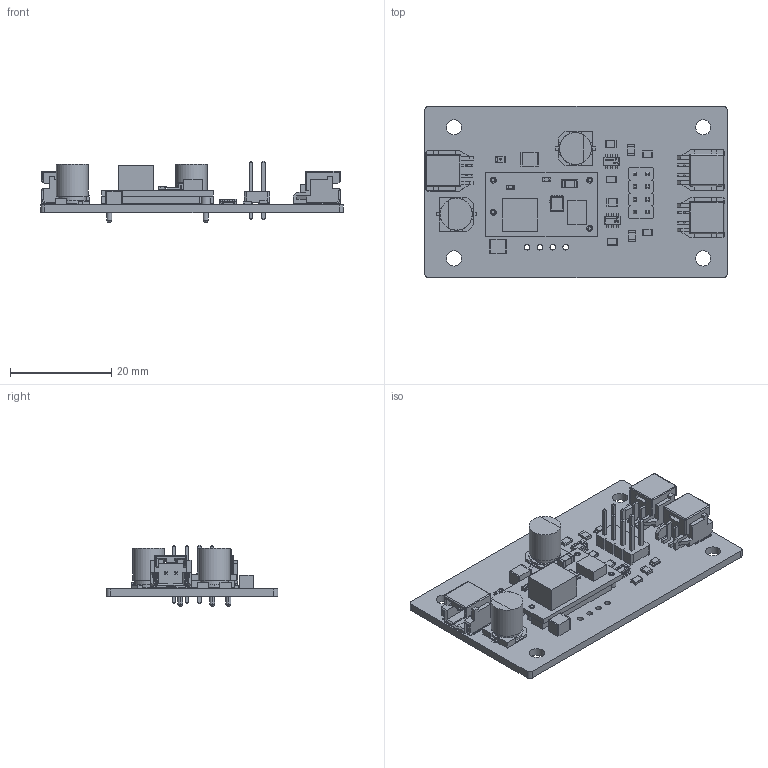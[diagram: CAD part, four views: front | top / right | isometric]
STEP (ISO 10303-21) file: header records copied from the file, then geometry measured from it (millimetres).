
FILE_DESCRIPTION(('Open CASCADE Model'),'2;1');
FILE_NAME('Open CASCADE Shape Model','2023-03-22T23:25:07',('Author'),( 'Open CASCADE'),'Open CASCADE STEP processor 6.8','Open CASCADE 6.8' ,'Unknown');
FILE_SCHEMA(('AUTOMOTIVE_DESIGN { 1 0 10303 214 1 1 1 1 }'));
Products named in the file (1): PCB
Bounding box: 59.77 x 33.93 x 12.13 mm (x, y, z)
Volume: 5236.4 mm3; surface area: 9458 mm2
Topology: 102 solids, 1272 shells, 2939 faces, 10308 edges, 8699 vertices
Faces by surface type: plane 1766, extrusion 540, cylinder 415, sphere 114, bspline 52, torus 36, revolution 8, cone 8
Full cylindrical faces by diameter (mm): 0.25 x2, 1.1 x12, 1.4 x4, 3 x4, 5.513 x2, 6.3 x2
Entity records: 120525 total; most frequent: CARTESIAN_POINT 27619, ORIENTED_EDGE 14446, DIRECTION 14362, EDGE_CURVE 10252, VERTEX_POINT 8699, VECTOR 7478, LINE 6938, AXIS2_PLACEMENT_3D 3438
